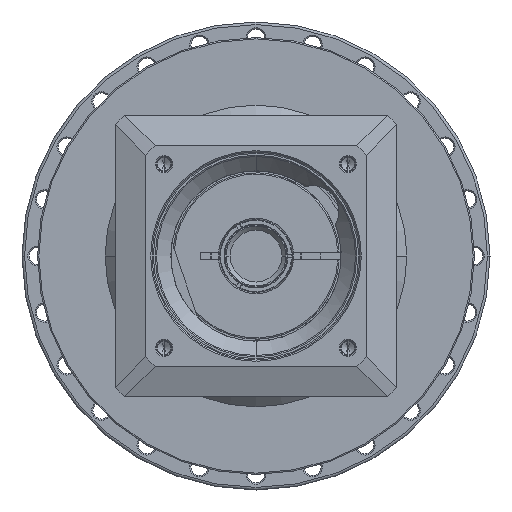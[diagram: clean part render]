
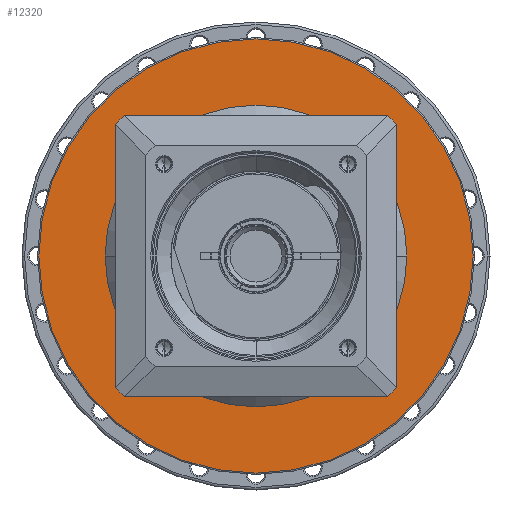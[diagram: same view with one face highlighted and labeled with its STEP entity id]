
A CAD part, left-side view. The second image highlights one B-rep face of the part: STEP entity #12320.
In plain terms, the highlighted planar face has unit normal (-1, 0, 0) as drawn and (1, 0, 0) by its records, which use the part's own axes.
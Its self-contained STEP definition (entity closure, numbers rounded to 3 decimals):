
#11847=CARTESIAN_POINT('',(-4.,0.,0.));
#11848=DIRECTION('',(-1.,0.,0.));
#11849=DIRECTION('',(0.,1.,0.));
#11850=AXIS2_PLACEMENT_3D('',#11847,#11848,#11849);
#11852=CARTESIAN_POINT('',(-4.,0.,
0.));
#11853=DIRECTION('',(-1.,0.,0.));
#11854=DIRECTION('',(0.,-1.,0.));
#11855=AXIS2_PLACEMENT_3D('',#11852,#11853,#11854);
#11857=CARTESIAN_POINT('',(-4.,0.,0.));
#11858=DIRECTION('',(-1.,0.,0.));
#11859=DIRECTION('',(0.,-1.,0.));
#11860=AXIS2_PLACEMENT_3D('',#11857,#11858,#11859);
#11862=CARTESIAN_POINT('',(-4.,0.,0.));
#11863=DIRECTION('',(-1.,0.,0.));
#11864=DIRECTION('',(0.,1.,0.));
#11865=AXIS2_PLACEMENT_3D('',#11862,#11863,#11864);
#11891=CARTESIAN_POINT('',(-4.,-83.5,0.));
#11892=CARTESIAN_POINT('',(-4.,83.5,0.));
#11893=VERTEX_POINT('',#11891);
#11894=VERTEX_POINT('',#11892);
#11939=CARTESIAN_POINT('',(-4.,58.,0.));
#11940=CARTESIAN_POINT('',(-4.,-58.,0.));
#11941=VERTEX_POINT('',#11939);
#11942=VERTEX_POINT('',#11940);
#12305=CARTESIAN_POINT('',(-4.,0.,0.));
#12306=DIRECTION('',(1.,0.,0.));
#12307=DIRECTION('',(0.,-1.,0.));
#12308=AXIS2_PLACEMENT_3D('',#12305,#12306,#12307);
#12309=PLANE('',#12308);
#12310=ORIENTED_EDGE('',*,*,#12246,.T.);
#12311=ORIENTED_EDGE('',*,*,#12261,.T.);
#12312=EDGE_LOOP('',(#12310,#12311));
#12313=FACE_OUTER_BOUND('',#12312,.F.);
#12315=ORIENTED_EDGE('',*,*,#12314,.F.);
#12317=ORIENTED_EDGE('',*,*,#12316,.F.);
#12318=EDGE_LOOP('',(#12315,#12317));
#12319=FACE_BOUND('',#12318,.F.);
#12320=ADVANCED_FACE('',(#12313,#12319),#12309,.T.);
#11851=CIRCLE('',#11850,58.);
#11856=CIRCLE('',#11855,58.);
#11861=CIRCLE('',#11860,83.5);
#11866=CIRCLE('',#11865,83.5);
#12246=EDGE_CURVE('',#11893,#11894,#11861,.T.);
#12261=EDGE_CURVE('',#11894,#11893,#11866,.T.);
#12314=EDGE_CURVE('',#11941,#11942,#11851,.T.);
#12316=EDGE_CURVE('',#11942,#11941,#11856,.T.);
